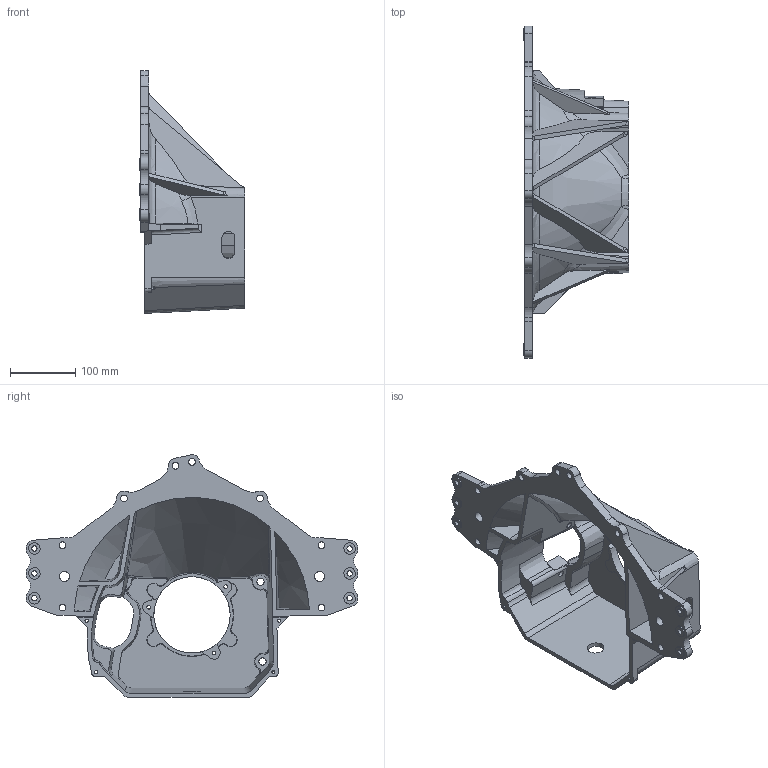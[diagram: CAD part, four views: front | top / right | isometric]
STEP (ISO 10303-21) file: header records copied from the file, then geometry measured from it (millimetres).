
FILE_DESCRIPTION(/* description */ ('Unknown'),/* implementation_level */ '2;1');
FILE_NAME(/* name */ '52-591, SIMPLE',/* time_stamp */ '2023-05-11T10:14:40-07:00',/* author */ ('Unknown'),/* organization */ ('Unknown'),/* preprocessor_version */ 'ST-DEVELOPER v16.7',/* originating_system */ 'DEX',/* authorisation */ $);
FILE_SCHEMA (('AUTOMOTIVE_DESIGN {1 0 10303 214 3 1 1}'));
Length unit declared in the file: millimetre
Products named in the file (1): 52-591, SIMPLE
Bounding box: 162.05 x 508 x 371.62 mm (x, y, z)
Volume: 2001850.8 mm3; surface area: 514537.5 mm2
Topology: 1 solids, 1 shells, 346 faces, 1032 edges, 691 vertices
Faces by surface type: plane 135, cylinder 106, cone 52, bspline 42, torus 9, sphere 2
Full cylindrical faces by diameter (mm): 4.976 x4, 5.563 x3, 8.255 x6, 9.525 x2, 10.317 x8, 11.113 x4, 15.24 x2, 17.526 x6, 25.4 x1, 116.84 x1
Entity records: 14806 total; most frequent: CARTESIAN_POINT 3644, ORIENTED_EDGE 1912, DIRECTION 1650, EDGE_CURVE 956, VERTEX_POINT 661, AXIS2_PLACEMENT_3D 642, FACE_BOUND 459, EDGE_LOOP 457
